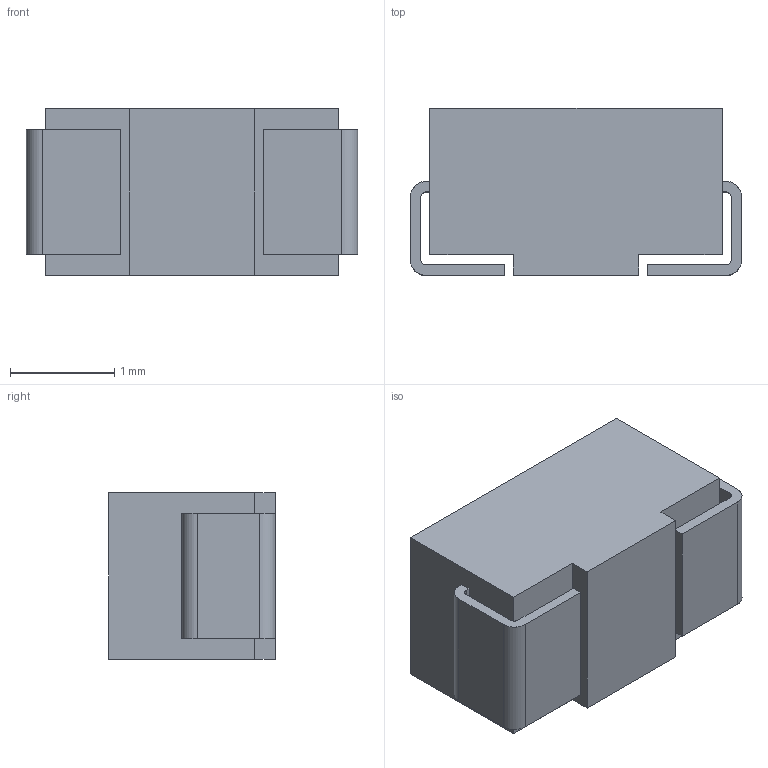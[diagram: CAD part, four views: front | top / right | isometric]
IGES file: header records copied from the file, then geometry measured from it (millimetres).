
Start section: SolidWorks IGES FILE using analytic representation for surfaces
Global section: file name: Y:\CONTENTCENTRAL\A Case SMT Capacitor\cache\ADEFAU0606200321010.igs; native system: SolidWorks 2003 by SolidWorks Corporation; preprocessor: Version 5.3; author: PartStream; date: 030606.021814; units: millimetre
Bounding box: 3.17 x 1.6 x 1.6 mm (x, y, z)
Surface area: 31.2 mm2 (no closed solid volume)
Topology: 0 solids, 0 shells, 36 faces, 224 edges, 224 vertices
Faces by surface type: bspline 28, revolution 8
